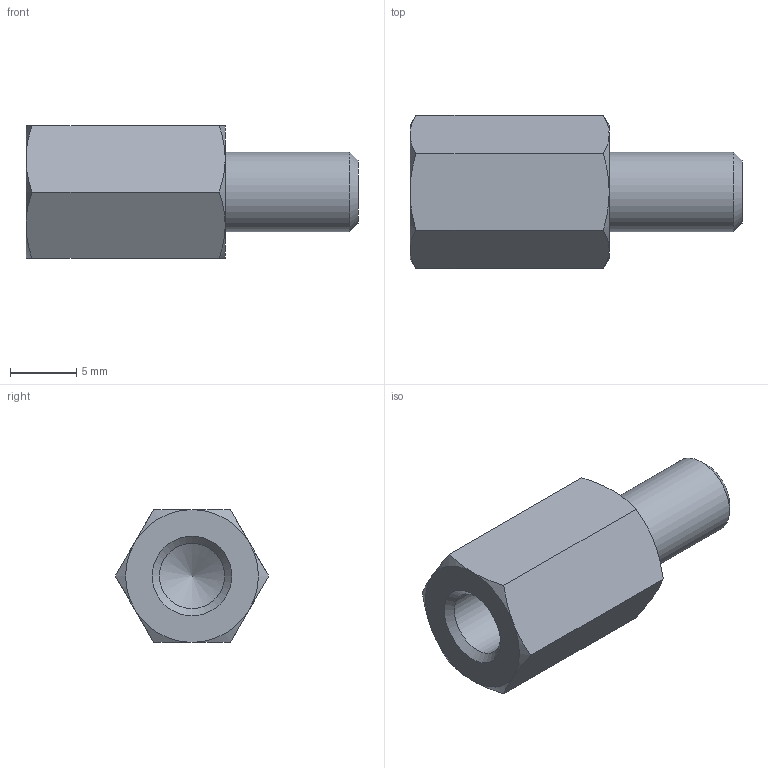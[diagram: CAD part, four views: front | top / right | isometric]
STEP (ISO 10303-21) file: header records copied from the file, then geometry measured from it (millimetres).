
FILE_DESCRIPTION( ( 'STEP AP203' ), '1' );
FILE_NAME( 'C:/Temp/Ganter_Step_05_03_2020/data/3_2/gn6220/gn6220_st/Spacer GN 6220-ST-M6-15-B.stp', '2020-03-13T05:42:46', ( 'License CC BY-ND 4.0' ), ( 'CADENAS' ), ' ', 'PARTsolutions', ' ' );
FILE_SCHEMA( ( 'CONFIG_CONTROL_DESIGN' ) );
Length unit declared in the file: millimetre
Products named in the file (1): _Spacer GN 6220-ST-M6-15-B
Bounding box: 25 x 11.55 x 10 mm (x, y, z)
Volume: 1317.7 mm3; surface area: 1065.4 mm2
Topology: 1 solids, 1 shells, 26 faces, 55 edges, 32 vertices
Faces by surface type: cone 15, plane 9, cylinder 2
Full cylindrical faces by diameter (mm): 4.917 x1, 6 x1
Entity records: 762 total; most frequent: CARTESIAN_POINT 226, DIRECTION 96, ORIENTED_EDGE 96, EDGE_CURVE 48, AXIS2_PLACEMENT_3D 45, EDGE_LOOP 32, VERTEX_POINT 31, FACE_OUTER_BOUND 28
